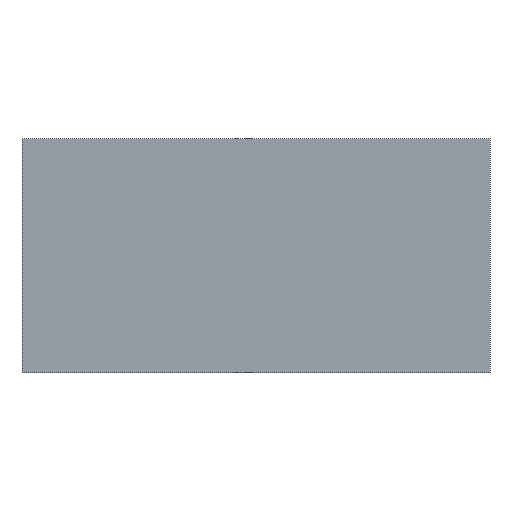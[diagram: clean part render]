
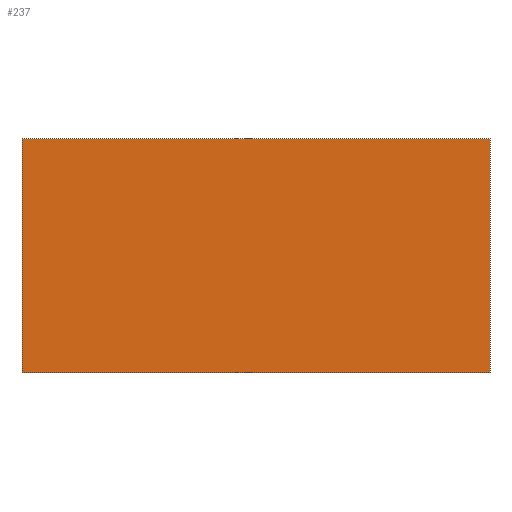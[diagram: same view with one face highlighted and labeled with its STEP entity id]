
A CAD part, front view. The second image highlights one B-rep face of the part: STEP entity #237.
In plain terms, the highlighted planar face has unit normal (0, -1, 0).
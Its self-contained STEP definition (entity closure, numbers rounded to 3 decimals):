
#21 = EDGE_CURVE('',#22,#24,#26,.T.);
#22 = VERTEX_POINT('',#23);
#23 = CARTESIAN_POINT('',(-70.,8.4,10.));
#24 = VERTEX_POINT('',#25);
#25 = CARTESIAN_POINT('',(-70.,8.4,80.));
#26 = SURFACE_CURVE('',#27,(#31,#43),.PCURVE_S1.);
#27 = LINE('',#28,#29);
#28 = CARTESIAN_POINT('',(-70.,8.4,10.));
#29 = VECTOR('',#30,1.);
#30 = DIRECTION('',(0.,0.,1.));
#31 = PCURVE('',#32,#37);
#32 = PLANE('',#33);
#33 = AXIS2_PLACEMENT_3D('',#34,#35,#36);
#34 = CARTESIAN_POINT('',(-70.,8.4,10.));
#35 = DIRECTION('',(1.,0.,-0.));
#36 = DIRECTION('',(0.,0.,1.));
#37 = DEFINITIONAL_REPRESENTATION('',(#38),#42);
#38 = LINE('',#39,#40);
#39 = CARTESIAN_POINT('',(0.,0.));
#40 = VECTOR('',#41,1.);
#41 = DIRECTION('',(1.,0.));
#42 = ( GEOMETRIC_REPRESENTATION_CONTEXT(2) 
PARAMETRIC_REPRESENTATION_CONTEXT() REPRESENTATION_CONTEXT('2D SPACE',''
  ) );
#43 = PCURVE('',#44,#49);
#44 = PLANE('',#45);
#45 = AXIS2_PLACEMENT_3D('',#46,#47,#48);
#46 = CARTESIAN_POINT('',(-70.,8.4,10.));
#47 = DIRECTION('',(-0.,1.,0.));
#48 = DIRECTION('',(0.,0.,1.));
#49 = DEFINITIONAL_REPRESENTATION('',(#50),#54);
#50 = LINE('',#51,#52);
#51 = CARTESIAN_POINT('',(0.,0.));
#52 = VECTOR('',#53,1.);
#53 = DIRECTION('',(1.,0.));
#54 = ( GEOMETRIC_REPRESENTATION_CONTEXT(2) 
PARAMETRIC_REPRESENTATION_CONTEXT() REPRESENTATION_CONTEXT('2D SPACE',''
  ) );
#72 = PLANE('',#73);
#73 = AXIS2_PLACEMENT_3D('',#74,#75,#76);
#74 = CARTESIAN_POINT('',(-70.,8.4,10.));
#75 = DIRECTION('',(0.,0.,1.));
#76 = DIRECTION('',(1.,0.,-0.));
#126 = PLANE('',#127);
#127 = AXIS2_PLACEMENT_3D('',#128,#129,#130);
#128 = CARTESIAN_POINT('',(-70.,8.4,80.));
#129 = DIRECTION('',(0.,0.,1.));
#130 = DIRECTION('',(1.,0.,-0.));
#141 = EDGE_CURVE('',#142,#144,#146,.T.);
#142 = VERTEX_POINT('',#143);
#143 = CARTESIAN_POINT('',(70.,8.4,10.));
#144 = VERTEX_POINT('',#145);
#145 = CARTESIAN_POINT('',(70.,8.4,80.));
#146 = SURFACE_CURVE('',#147,(#151,#163),.PCURVE_S1.);
#147 = LINE('',#148,#149);
#148 = CARTESIAN_POINT('',(70.,8.4,10.));
#149 = VECTOR('',#150,1.);
#150 = DIRECTION('',(0.,0.,1.));
#151 = PCURVE('',#152,#157);
#152 = PLANE('',#153);
#153 = AXIS2_PLACEMENT_3D('',#154,#155,#156);
#154 = CARTESIAN_POINT('',(70.,8.4,10.));
#155 = DIRECTION('',(1.,0.,-0.));
#156 = DIRECTION('',(0.,0.,1.));
#157 = DEFINITIONAL_REPRESENTATION('',(#158),#162);
#158 = LINE('',#159,#160);
#159 = CARTESIAN_POINT('',(0.,0.));
#160 = VECTOR('',#161,1.);
#161 = DIRECTION('',(1.,0.));
#162 = ( GEOMETRIC_REPRESENTATION_CONTEXT(2) 
PARAMETRIC_REPRESENTATION_CONTEXT() REPRESENTATION_CONTEXT('2D SPACE',''
  ) );
#163 = PCURVE('',#44,#164);
#164 = DEFINITIONAL_REPRESENTATION('',(#165),#169);
#165 = LINE('',#166,#167);
#166 = CARTESIAN_POINT('',(0.,140.));
#167 = VECTOR('',#168,1.);
#168 = DIRECTION('',(1.,0.));
#169 = ( GEOMETRIC_REPRESENTATION_CONTEXT(2) 
PARAMETRIC_REPRESENTATION_CONTEXT() REPRESENTATION_CONTEXT('2D SPACE',''
  ) );
#237 = ADVANCED_FACE('',(#238),#44,.F.);
#238 = FACE_BOUND('',#239,.F.);
#239 = EDGE_LOOP('',(#240,#261,#262,#283));
#240 = ORIENTED_EDGE('',*,*,#241,.F.);
#241 = EDGE_CURVE('',#22,#142,#242,.T.);
#242 = SURFACE_CURVE('',#243,(#247,#254),.PCURVE_S1.);
#243 = LINE('',#244,#245);
#244 = CARTESIAN_POINT('',(-70.,8.4,10.));
#245 = VECTOR('',#246,1.);
#246 = DIRECTION('',(1.,0.,-0.));
#247 = PCURVE('',#44,#248);
#248 = DEFINITIONAL_REPRESENTATION('',(#249),#253);
#249 = LINE('',#250,#251);
#250 = CARTESIAN_POINT('',(0.,0.));
#251 = VECTOR('',#252,1.);
#252 = DIRECTION('',(0.,1.));
#253 = ( GEOMETRIC_REPRESENTATION_CONTEXT(2) 
PARAMETRIC_REPRESENTATION_CONTEXT() REPRESENTATION_CONTEXT('2D SPACE',''
  ) );
#254 = PCURVE('',#72,#255);
#255 = DEFINITIONAL_REPRESENTATION('',(#256),#260);
#256 = LINE('',#257,#258);
#257 = CARTESIAN_POINT('',(0.,0.));
#258 = VECTOR('',#259,1.);
#259 = DIRECTION('',(1.,0.));
#260 = ( GEOMETRIC_REPRESENTATION_CONTEXT(2) 
PARAMETRIC_REPRESENTATION_CONTEXT() REPRESENTATION_CONTEXT('2D SPACE',''
  ) );
#261 = ORIENTED_EDGE('',*,*,#21,.T.);
#262 = ORIENTED_EDGE('',*,*,#263,.T.);
#263 = EDGE_CURVE('',#24,#144,#264,.T.);
#264 = SURFACE_CURVE('',#265,(#269,#276),.PCURVE_S1.);
#265 = LINE('',#266,#267);
#266 = CARTESIAN_POINT('',(-70.,8.4,80.));
#267 = VECTOR('',#268,1.);
#268 = DIRECTION('',(1.,0.,-0.));
#269 = PCURVE('',#44,#270);
#270 = DEFINITIONAL_REPRESENTATION('',(#271),#275);
#271 = LINE('',#272,#273);
#272 = CARTESIAN_POINT('',(70.,0.));
#273 = VECTOR('',#274,1.);
#274 = DIRECTION('',(0.,1.));
#275 = ( GEOMETRIC_REPRESENTATION_CONTEXT(2) 
PARAMETRIC_REPRESENTATION_CONTEXT() REPRESENTATION_CONTEXT('2D SPACE',''
  ) );
#276 = PCURVE('',#126,#277);
#277 = DEFINITIONAL_REPRESENTATION('',(#278),#282);
#278 = LINE('',#279,#280);
#279 = CARTESIAN_POINT('',(0.,0.));
#280 = VECTOR('',#281,1.);
#281 = DIRECTION('',(1.,0.));
#282 = ( GEOMETRIC_REPRESENTATION_CONTEXT(2) 
PARAMETRIC_REPRESENTATION_CONTEXT() REPRESENTATION_CONTEXT('2D SPACE',''
  ) );
#283 = ORIENTED_EDGE('',*,*,#141,.F.);
